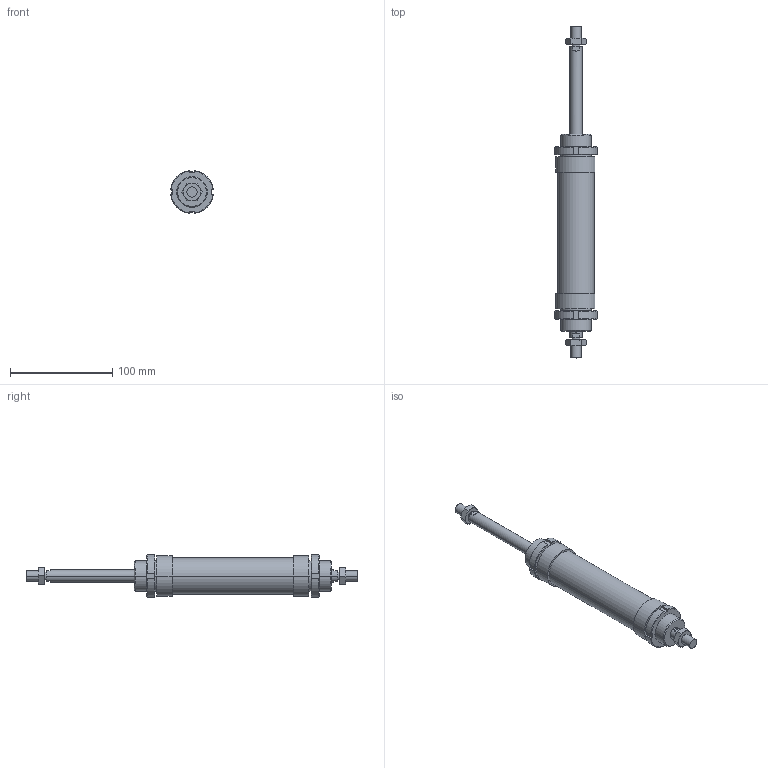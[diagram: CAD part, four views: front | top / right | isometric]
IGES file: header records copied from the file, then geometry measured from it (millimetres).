
Global section: file name: No Iges File Name specified; native system: AutoDesk Inventor R6.0; preprocessor: AutoDesk Inventor Iges Exporter R6.0; author: No Author specified; organization: No Organization specified; date: 20030403.072630; units: millimetre
Bounding box: 41.7 x 325 x 41.7 mm (x, y, z)
Volume: 215076.4 mm3; surface area: 52044.8 mm2
Topology: 6 solids, 6 shells, 182 faces, 424 edges, 264 vertices
Faces by surface type: plane 66, cone 52, bspline 30, cylinder 28, revolution 6
